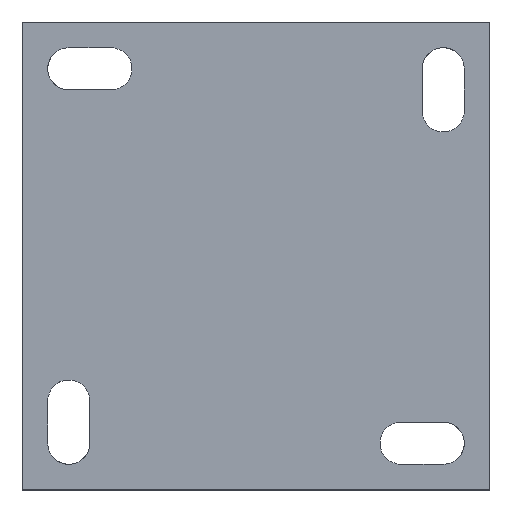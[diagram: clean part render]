
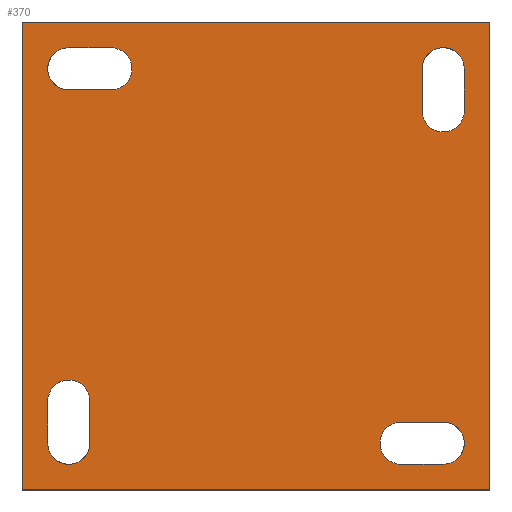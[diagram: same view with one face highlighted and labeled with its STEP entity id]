
A CAD part, top view. The second image highlights one B-rep face of the part: STEP entity #370.
In plain terms, the highlighted planar face has unit normal (0, 0, 1).
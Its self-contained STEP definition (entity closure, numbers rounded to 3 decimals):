
#33=FACE_BOUND($,#475,.T.);
#34=FACE_BOUND($,#476,.T.);
#35=FACE_BOUND($,#477,.T.);
#36=FACE_BOUND($,#478,.T.);
#46=PLANE($,#1219);
#370=ADVANCED_FACE($,(#411,#33,#34,#35,#36),#46,.T.);
#411=FACE_OUTER_BOUND($,#474,.T.);
#474=EDGE_LOOP($,(#667,#668,#669,#670));
#475=EDGE_LOOP($,(#671));
#476=EDGE_LOOP($,(#672));
#477=EDGE_LOOP($,(#673));
#478=EDGE_LOOP($,(#674));
#667=ORIENTED_EDGE($,*,*,#837,.T.);
#668=ORIENTED_EDGE($,*,*,#844,.T.);
#669=ORIENTED_EDGE($,*,*,#843,.T.);
#670=ORIENTED_EDGE($,*,*,#842,.T.);
#671=ORIENTED_EDGE($,*,*,#838,.T.);
#672=ORIENTED_EDGE($,*,*,#839,.T.);
#673=ORIENTED_EDGE($,*,*,#840,.T.);
#674=ORIENTED_EDGE($,*,*,#841,.T.);
#837=EDGE_CURVE($,#981,#988,#1080,.T.);
#838=EDGE_CURVE($,#982,#982,#1186,.T.);
#839=EDGE_CURVE($,#983,#983,#1187,.T.);
#840=EDGE_CURVE($,#984,#984,#1188,.T.);
#841=EDGE_CURVE($,#985,#985,#1189,.T.);
#842=EDGE_CURVE($,#986,#981,#1081,.T.);
#843=EDGE_CURVE($,#987,#986,#1082,.T.);
#844=EDGE_CURVE($,#988,#987,#1083,.T.);
#981=VERTEX_POINT($,#3010);
#982=VERTEX_POINT($,#3011);
#983=VERTEX_POINT($,#3012);
#984=VERTEX_POINT($,#3013);
#985=VERTEX_POINT($,#3014);
#986=VERTEX_POINT($,#3015);
#987=VERTEX_POINT($,#3016);
#988=VERTEX_POINT($,#3017);
#1080=B_SPLINE_CURVE_WITH_KNOTS($,1,(#2949,#2950),.UNSPECIFIED.,.F.,.F.,
(2,2),(0.,100.),.UNSPECIFIED.);
#1081=B_SPLINE_CURVE_WITH_KNOTS($,1,(#3003,#3004),.UNSPECIFIED.,.F.,.F.,
(2,2),(300.,400.),.UNSPECIFIED.);
#1082=B_SPLINE_CURVE_WITH_KNOTS($,1,(#3005,#3006),.UNSPECIFIED.,.F.,.F.,
(2,2),(200.,300.),.UNSPECIFIED.);
#1083=B_SPLINE_CURVE_WITH_KNOTS($,1,(#3007,#3008),.UNSPECIFIED.,.F.,.F.,
(2,2),(100.,200.),.UNSPECIFIED.);
#1186=(
BOUNDED_CURVE()
B_SPLINE_CURVE(2,(#2951,#2952,#2953,#2954,#2955,#2956,#2957,#2958,#2959,
#2960,#2961,#2962,#2963),.UNSPECIFIED.,.T.,.F.)
B_SPLINE_CURVE_WITH_KNOTS((3,2,2,2,2,2,3),(-46.274,-37.274,
-30.206,-23.137,-14.137,-7.069,
0.),.UNSPECIFIED.)
CURVE()
GEOMETRIC_REPRESENTATION_ITEM()
RATIONAL_B_SPLINE_CURVE((1.,1.,1.,0.707,1.,0.707,
1.,1.,1.,0.707,1.,0.707,1.))
REPRESENTATION_ITEM($)
);
#1187=(
BOUNDED_CURVE()
B_SPLINE_CURVE(2,(#2964,#2965,#2966,#2967,#2968,#2969,#2970,#2971,#2972,
#2973,#2974,#2975,#2976),.UNSPECIFIED.,.T.,.F.)
B_SPLINE_CURVE_WITH_KNOTS((3,2,2,2,2,2,3),(-46.274,-37.274,
-30.206,-23.137,-14.137,-7.069,
0.),.UNSPECIFIED.)
CURVE()
GEOMETRIC_REPRESENTATION_ITEM()
RATIONAL_B_SPLINE_CURVE((1.,1.,1.,0.707,1.,0.707,
1.,1.,1.,0.707,1.,0.707,1.))
REPRESENTATION_ITEM($)
);
#1188=(
BOUNDED_CURVE()
B_SPLINE_CURVE(2,(#2977,#2978,#2979,#2980,#2981,#2982,#2983,#2984,#2985,
#2986,#2987,#2988,#2989),.UNSPECIFIED.,.T.,.F.)
B_SPLINE_CURVE_WITH_KNOTS((3,2,2,2,2,2,3),(-46.274,-37.274,
-30.206,-23.137,-14.137,-7.069,
0.),.UNSPECIFIED.)
CURVE()
GEOMETRIC_REPRESENTATION_ITEM()
RATIONAL_B_SPLINE_CURVE((1.,1.,1.,0.707,1.,0.707,
1.,1.,1.,0.707,1.,0.707,1.))
REPRESENTATION_ITEM($)
);
#1189=(
BOUNDED_CURVE()
B_SPLINE_CURVE(2,(#2990,#2991,#2992,#2993,#2994,#2995,#2996,#2997,#2998,
#2999,#3000,#3001,#3002),.UNSPECIFIED.,.T.,.F.)
B_SPLINE_CURVE_WITH_KNOTS((3,2,2,2,2,2,3),(-46.274,-37.274,
-30.206,-23.137,-14.137,-7.069,
0.),.UNSPECIFIED.)
CURVE()
GEOMETRIC_REPRESENTATION_ITEM()
RATIONAL_B_SPLINE_CURVE((1.,1.,1.,0.707,1.,0.707,
1.,1.,1.,0.707,1.,0.707,1.))
REPRESENTATION_ITEM($)
);
#1219=AXIS2_PLACEMENT_3D($,#3009,#1232,$);
#1232=DIRECTION($,(0.,0.,1.));
#2949=CARTESIAN_POINT($,(-50.,-50.,0.));
#2950=CARTESIAN_POINT($,(50.,-50.,0.));
#2951=CARTESIAN_POINT($,(-44.5,-40.,0.));
#2952=CARTESIAN_POINT($,(-44.5,-35.5,0.));
#2953=CARTESIAN_POINT($,(-44.5,-31.,0.));
#2954=CARTESIAN_POINT($,(-44.5,-26.5,0.));
#2955=CARTESIAN_POINT($,(-40.,-26.5,0.));
#2956=CARTESIAN_POINT($,(-35.5,-26.5,0.));
#2957=CARTESIAN_POINT($,(-35.5,-31.,0.));
#2958=CARTESIAN_POINT($,(-35.5,-35.5,0.));
#2959=CARTESIAN_POINT($,(-35.5,-40.,0.));
#2960=CARTESIAN_POINT($,(-35.5,-44.5,0.));
#2961=CARTESIAN_POINT($,(-40.,-44.5,0.));
#2962=CARTESIAN_POINT($,(-44.5,-44.5,0.));
#2963=CARTESIAN_POINT($,(-44.5,-40.,0.));
#2964=CARTESIAN_POINT($,(40.,-44.5,0.));
#2965=CARTESIAN_POINT($,(35.5,-44.5,0.));
#2966=CARTESIAN_POINT($,(31.,-44.5,0.));
#2967=CARTESIAN_POINT($,(26.5,-44.5,0.));
#2968=CARTESIAN_POINT($,(26.5,-40.,0.));
#2969=CARTESIAN_POINT($,(26.5,-35.5,0.));
#2970=CARTESIAN_POINT($,(31.,-35.5,0.));
#2971=CARTESIAN_POINT($,(35.5,-35.5,0.));
#2972=CARTESIAN_POINT($,(40.,-35.5,0.));
#2973=CARTESIAN_POINT($,(44.5,-35.5,0.));
#2974=CARTESIAN_POINT($,(44.5,-40.,0.));
#2975=CARTESIAN_POINT($,(44.5,-44.5,0.));
#2976=CARTESIAN_POINT($,(40.,-44.5,0.));
#2977=CARTESIAN_POINT($,(44.5,40.,0.));
#2978=CARTESIAN_POINT($,(44.5,35.5,0.));
#2979=CARTESIAN_POINT($,(44.5,31.,0.));
#2980=CARTESIAN_POINT($,(44.5,26.5,0.));
#2981=CARTESIAN_POINT($,(40.,26.5,0.));
#2982=CARTESIAN_POINT($,(35.5,26.5,0.));
#2983=CARTESIAN_POINT($,(35.5,31.,0.));
#2984=CARTESIAN_POINT($,(35.5,35.5,0.));
#2985=CARTESIAN_POINT($,(35.5,40.,0.));
#2986=CARTESIAN_POINT($,(35.5,44.5,0.));
#2987=CARTESIAN_POINT($,(40.,44.5,0.));
#2988=CARTESIAN_POINT($,(44.5,44.5,0.));
#2989=CARTESIAN_POINT($,(44.5,40.,0.));
#2990=CARTESIAN_POINT($,(-40.,44.5,0.));
#2991=CARTESIAN_POINT($,(-35.5,44.5,0.));
#2992=CARTESIAN_POINT($,(-31.,44.5,0.));
#2993=CARTESIAN_POINT($,(-26.5,44.5,0.));
#2994=CARTESIAN_POINT($,(-26.5,40.,0.));
#2995=CARTESIAN_POINT($,(-26.5,35.5,0.));
#2996=CARTESIAN_POINT($,(-31.,35.5,0.));
#2997=CARTESIAN_POINT($,(-35.5,35.5,0.));
#2998=CARTESIAN_POINT($,(-40.,35.5,0.));
#2999=CARTESIAN_POINT($,(-44.5,35.5,0.));
#3000=CARTESIAN_POINT($,(-44.5,40.,0.));
#3001=CARTESIAN_POINT($,(-44.5,44.5,0.));
#3002=CARTESIAN_POINT($,(-40.,44.5,0.));
#3003=CARTESIAN_POINT($,(-50.,50.,0.));
#3004=CARTESIAN_POINT($,(-50.,-50.,0.));
#3005=CARTESIAN_POINT($,(50.,50.,0.));
#3006=CARTESIAN_POINT($,(-50.,50.,0.));
#3007=CARTESIAN_POINT($,(50.,-50.,0.));
#3008=CARTESIAN_POINT($,(50.,50.,0.));
#3009=CARTESIAN_POINT($,(-50.,-50.,0.));
#3010=CARTESIAN_POINT($,(-50.,-50.,0.));
#3011=CARTESIAN_POINT($,(-44.5,-40.,0.));
#3012=CARTESIAN_POINT($,(40.,-44.5,0.));
#3013=CARTESIAN_POINT($,(44.5,40.,0.));
#3014=CARTESIAN_POINT($,(-40.,44.5,0.));
#3015=CARTESIAN_POINT($,(-50.,50.,0.));
#3016=CARTESIAN_POINT($,(50.,50.,0.));
#3017=CARTESIAN_POINT($,(50.,-50.,0.));
